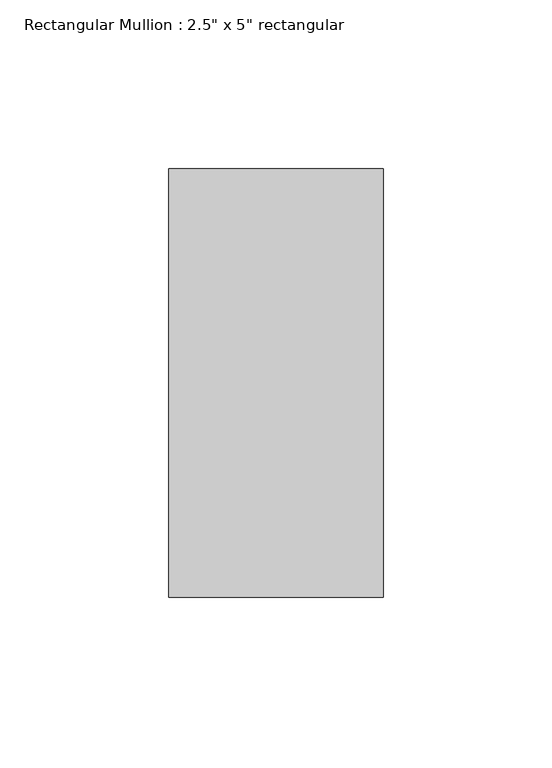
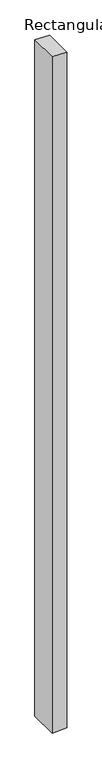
"""IFC4 building model written with IfcOpenShell, lengths in millimetres: member geometry."""

from ifc_helpers import new_model, si_unit, frame, origin, place, context, project, spatial, polyline, outline, extrude, source, transform, mapped, element, save


def member_de1d594c(model_context):
    return source(origin(), model_context, "Body", "SweptSolid", [
        extrude(outline(polyline([(0.0, 0.0), (1.3803074, -63.5), (-3050.7388608, -63.5), (-3049.3603483, 0.0), (0.0, 0.0)])), frame((0.0, -63.5, 0.0), z_axis=(0.0, 1.0, 0.0), x_axis=(0.0, 0.0, 1.0)), (0.0, 0.0, 1.0), 127.0),
    ])


if __name__ == "__main__":
    model = new_model("IFC4")
    model_context = context("Model", 3, world=origin())
    ifc_project = project(units=[si_unit("LENGTHUNIT", "METRE", prefix="MILLI")], contexts=[model_context])
    site = spatial("IfcSite", under=ifc_project)
    building = spatial("IfcBuilding", under=site)
    placement = place(None, origin())
    member_shape = member_de1d594c(model_context)
    element("IfcMember", 1, ObjectType="Rectangular Mullion : 2.5\" x 5\" rectangular", at=placement, inside=building, context=model_context, shape_type="MappedRepresentation", body=[
        mapped(member_shape, transform((0.0, 0.0, 0.0), x_axis=(1.0, 0.0, 0.0), y_axis=(0.0, 1.0, 0.0), z_axis=(0.0, 0.0, 1.0))),
    ])
    save(model, "model.ifc")
